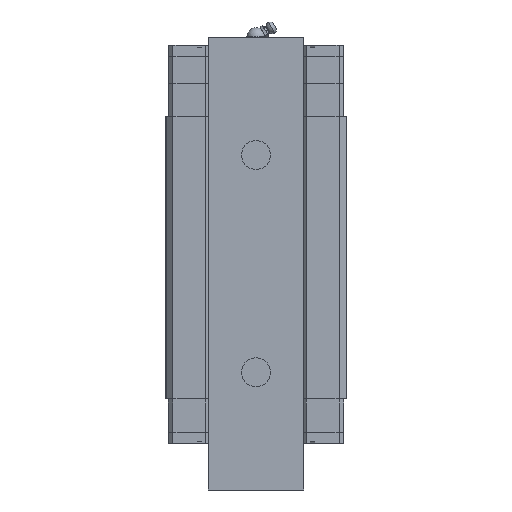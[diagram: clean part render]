
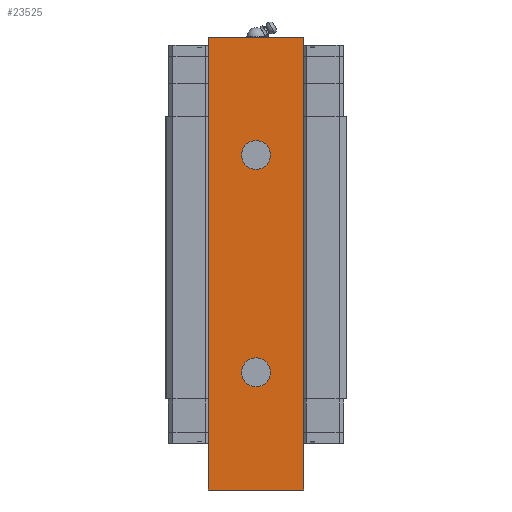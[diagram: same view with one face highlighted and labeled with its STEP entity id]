
A CAD part, front view. The second image highlights one B-rep face of the part: STEP entity #23525.
In plain terms, the highlighted planar face has unit normal (0, -1, 0).
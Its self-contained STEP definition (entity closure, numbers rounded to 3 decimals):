
#27 = AXIS2_PLACEMENT_3D ( 'NONE', #21131, #26026, #24023 ) ;
#507 = LINE ( 'NONE', #7596, #4151 ) ;
#1717 = EDGE_CURVE ( 'NONE', #9041, #12259, #2955, .T. ) ;
#1880 = DIRECTION ( 'NONE',  ( 1., 0., 0. ) ) ;
#1966 = EDGE_CURVE ( 'NONE', #12259, #9041, #13144, .T. ) ;
#2085 = ORIENTED_EDGE ( 'NONE', *, *, #1966, .F. ) ;
#2335 = DIRECTION ( 'NONE',  ( 0., 0., -1. ) ) ;
#2543 = ORIENTED_EDGE ( 'NONE', *, *, #1717, .F. ) ;
#2580 = ORIENTED_EDGE ( 'NONE', *, *, #13794, .T. ) ;
#2834 = DIRECTION ( 'NONE',  ( 0., 0., -1. ) ) ;
#2955 = CIRCLE ( 'NONE', #23154, 8. ) ;
#3252 = CARTESIAN_POINT ( 'NONE',  ( 26.5, -13., 125. ) ) ;
#3276 = CARTESIAN_POINT ( 'NONE',  ( -26.5, -13., -125. ) ) ;
#3352 = VERTEX_POINT ( 'NONE', #3252 ) ;
#3353 = ORIENTED_EDGE ( 'NONE', *, *, #21880, .F. ) ;
#3477 = LINE ( 'NONE', #25481, #27552 ) ;
#3973 = LINE ( 'NONE', #13873, #14524 ) ;
#4151 = VECTOR ( 'NONE', #7810, 1000. ) ;
#5193 = CARTESIAN_POINT ( 'NONE',  ( 0., -13., -68. ) ) ;
#5272 = PLANE ( 'NONE',  #6797 ) ;
#5388 = CARTESIAN_POINT ( 'NONE',  ( -26.5, -13., 125. ) ) ;
#5634 = EDGE_LOOP ( 'NONE', ( #24269, #25484 ) ) ;
#5994 = CARTESIAN_POINT ( 'NONE',  ( -26.5, -13., 125. ) ) ;
#6582 = CARTESIAN_POINT ( 'NONE',  ( 0., -13., -60. ) ) ;
#6797 = AXIS2_PLACEMENT_3D ( 'NONE', #5388, #21863, #24150 ) ;
#7507 = CARTESIAN_POINT ( 'NONE',  ( 0., -13., -52. ) ) ;
#7596 = CARTESIAN_POINT ( 'NONE',  ( 26.5, -13., 125. ) ) ;
#7810 = DIRECTION ( 'NONE',  ( 0., 0., -1. ) ) ;
#9041 = VERTEX_POINT ( 'NONE', #17809 ) ;
#10166 = VERTEX_POINT ( 'NONE', #7507 ) ;
#12259 = VERTEX_POINT ( 'NONE', #24901 ) ;
#12485 = CARTESIAN_POINT ( 'NONE',  ( 26.5, -13., -125. ) ) ;
#12574 = VECTOR ( 'NONE', #20448, 1000. ) ;
#12845 = CARTESIAN_POINT ( 'NONE',  ( -26.5, -13., 125. ) ) ;
#13144 = CIRCLE ( 'NONE', #27, 8. ) ;
#13312 = FACE_OUTER_BOUND ( 'NONE', #30114, .T. ) ;
#13794 = EDGE_CURVE ( 'NONE', #22289, #22246, #3477, .T. ) ;
#13873 = CARTESIAN_POINT ( 'NONE',  ( -26.5, -13., -125. ) ) ;
#14524 = VECTOR ( 'NONE', #1880, 1000. ) ;
#14587 = DIRECTION ( 'NONE',  ( 0., -1., 0. ) ) ;
#14709 = EDGE_CURVE ( 'NONE', #16868, #10166, #19881, .T. ) ;
#14787 = DIRECTION ( 'NONE',  ( 0., 0., -1. ) ) ;
#15390 = AXIS2_PLACEMENT_3D ( 'NONE', #6582, #23033, #2834 ) ;
#16098 = ORIENTED_EDGE ( 'NONE', *, *, #26613, .T. ) ;
#16195 = CARTESIAN_POINT ( 'NONE',  ( 0., -13., -60. ) ) ;
#16323 = EDGE_LOOP ( 'NONE', ( #2543, #2085 ) ) ;
#16842 = DIRECTION ( 'NONE',  ( 0., 0., -1. ) ) ;
#16868 = VERTEX_POINT ( 'NONE', #5193 ) ;
#17809 = CARTESIAN_POINT ( 'NONE',  ( 0., -13., 52. ) ) ;
#18427 = LINE ( 'NONE', #5994, #12574 ) ;
#19881 = CIRCLE ( 'NONE', #25393, 8. ) ;
#20448 = DIRECTION ( 'NONE',  ( 1., 0., 0. ) ) ;
#20952 = DIRECTION ( 'NONE',  ( 0., -1., 0. ) ) ;
#21131 = CARTESIAN_POINT ( 'NONE',  ( 0., -13., 60. ) ) ;
#21204 = VERTEX_POINT ( 'NONE', #12485 ) ;
#21863 = DIRECTION ( 'NONE',  ( 0., 1., 0. ) ) ;
#21880 = EDGE_CURVE ( 'NONE', #22289, #3352, #18427, .T. ) ;
#22246 = VERTEX_POINT ( 'NONE', #3276 ) ;
#22289 = VERTEX_POINT ( 'NONE', #12845 ) ;
#23033 = DIRECTION ( 'NONE',  ( 0., -1., 0. ) ) ;
#23154 = AXIS2_PLACEMENT_3D ( 'NONE', #25519, #14587, #14787 ) ;
#23270 = FACE_BOUND ( 'NONE', #16323, .T. ) ;
#23287 = CIRCLE ( 'NONE', #15390, 8. ) ;
#23525 = ADVANCED_FACE ( 'NONE', ( #27934, #23270, #13312 ), #5272, .F. ) ;
#24023 = DIRECTION ( 'NONE',  ( 0., 0., -1. ) ) ;
#24150 = DIRECTION ( 'NONE',  ( -1., 0., 0. ) ) ;
#24269 = ORIENTED_EDGE ( 'NONE', *, *, #14709, .F. ) ;
#24739 = ORIENTED_EDGE ( 'NONE', *, *, #28984, .F. ) ;
#24901 = CARTESIAN_POINT ( 'NONE',  ( 0., -13., 68. ) ) ;
#25393 = AXIS2_PLACEMENT_3D ( 'NONE', #16195, #20952, #2335 ) ;
#25481 = CARTESIAN_POINT ( 'NONE',  ( -26.5, -13., 125. ) ) ;
#25484 = ORIENTED_EDGE ( 'NONE', *, *, #29899, .F. ) ;
#25519 = CARTESIAN_POINT ( 'NONE',  ( 0., -13., 60. ) ) ;
#26026 = DIRECTION ( 'NONE',  ( 0., -1., 0. ) ) ;
#26613 = EDGE_CURVE ( 'NONE', #22246, #21204, #3973, .T. ) ;
#27552 = VECTOR ( 'NONE', #16842, 1000. ) ;
#27934 = FACE_BOUND ( 'NONE', #5634, .T. ) ;
#28984 = EDGE_CURVE ( 'NONE', #3352, #21204, #507, .T. ) ;
#29899 = EDGE_CURVE ( 'NONE', #10166, #16868, #23287, .T. ) ;
#30114 = EDGE_LOOP ( 'NONE', ( #2580, #16098, #24739, #3353 ) ) ;
